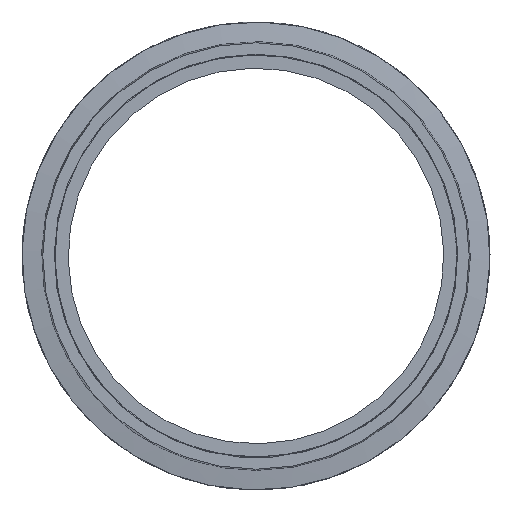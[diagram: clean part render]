
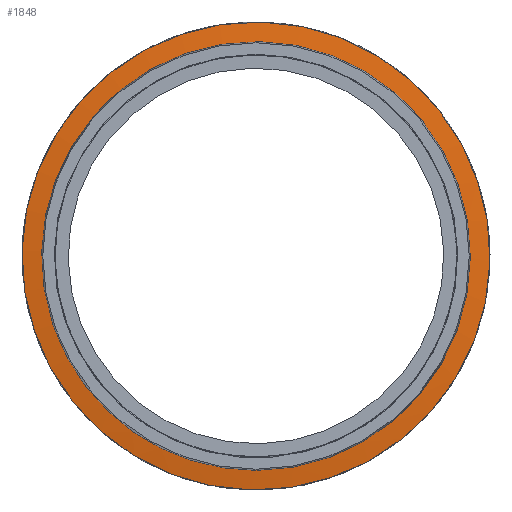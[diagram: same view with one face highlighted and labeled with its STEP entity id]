
A CAD part, left-side view. The second image highlights one B-rep face of the part: STEP entity #1848.
In plain terms, the highlighted conical face has half-angle 83 degrees and reference radius 48.463 mm.
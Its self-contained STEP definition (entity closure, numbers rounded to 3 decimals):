
#35=CONICAL_SURFACE('',#2044,48.463,1.449);
#68=FACE_BOUND('',#400,.T.);
#245=FACE_OUTER_BOUND('',#399,.T.);
#399=EDGE_LOOP('',(#1404,#1405));
#400=EDGE_LOOP('',(#1406));
#488=CIRCLE('',#1973,48.463);
#489=CIRCLE('',#1974,48.463);
#525=CIRCLE('',#2032,52.9);
#757=VERTEX_POINT('',#5727);
#758=VERTEX_POINT('',#5728);
#825=VERTEX_POINT('',#10666);
#934=EDGE_CURVE('',#757,#758,#488,.T.);
#935=EDGE_CURVE('',#758,#757,#489,.T.);
#1029=EDGE_CURVE('',#825,#825,#525,.T.);
#1404=ORIENTED_EDGE('',*,*,#934,.T.);
#1405=ORIENTED_EDGE('',*,*,#935,.T.);
#1406=ORIENTED_EDGE('',*,*,#1029,.T.);
#1848=ADVANCED_FACE('',(#245,#68),#35,.T.);
#1973=AXIS2_PLACEMENT_3D('',#5729,#2211,#2212);
#1974=AXIS2_PLACEMENT_3D('',#5730,#2213,#2214);
#2032=AXIS2_PLACEMENT_3D('',#10667,#2337,#2338);
#2044=AXIS2_PLACEMENT_3D('',#11356,#2361,#2362);
#2211=DIRECTION('center_axis',(1.,0.,0.));
#2212=DIRECTION('ref_axis',(0.,-0.878,0.479));
#2213=DIRECTION('center_axis',(1.,0.,0.));
#2214=DIRECTION('ref_axis',(0.,-0.878,0.479));
#2337=DIRECTION('center_axis',(-1.,0.,0.));
#2338=DIRECTION('ref_axis',(0.,-0.878,0.479));
#2361=DIRECTION('center_axis',(1.,0.,0.));
#2362=DIRECTION('ref_axis',(0.,-0.878,0.479));
#5727=CARTESIAN_POINT('',(-58.746,42.53,-23.234));
#5728=CARTESIAN_POINT('',(-58.746,0.,-48.463));
#5729=CARTESIAN_POINT('Origin',(-58.746,0.,
0.));
#5730=CARTESIAN_POINT('Origin',(-58.746,0.,
0.));
#10666=CARTESIAN_POINT('',(-58.201,46.424,-25.362));
#10667=CARTESIAN_POINT('Origin',(-58.201,0.,
0.));
#11356=CARTESIAN_POINT('Origin',(-58.746,0.,0.));
